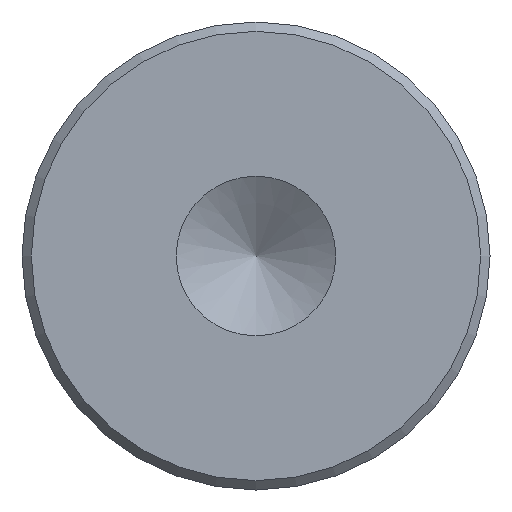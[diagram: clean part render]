
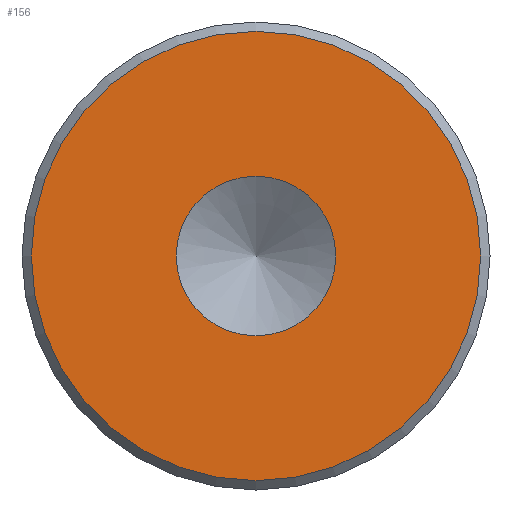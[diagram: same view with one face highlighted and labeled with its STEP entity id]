
A CAD part, front view. The second image highlights one B-rep face of the part: STEP entity #156.
In plain terms, the highlighted planar face has unit normal (0, -1, 0).
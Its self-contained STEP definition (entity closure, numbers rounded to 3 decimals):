
#16=FACE_BOUND('',#46,.T.);
#20=PLANE('',#193);
#33=FACE_OUTER_BOUND('',#45,.T.);
#45=EDGE_LOOP('',(#137));
#46=EDGE_LOOP('',(#138));
#63=CIRCLE('',#175,4.263);
#71=CIRCLE('',#189,12.);
#76=VERTEX_POINT('',#257);
#83=VERTEX_POINT('',#281);
#88=EDGE_CURVE('',#76,#76,#63,.T.);
#99=EDGE_CURVE('',#83,#83,#71,.T.);
#137=ORIENTED_EDGE('',*,*,#99,.F.);
#138=ORIENTED_EDGE('',*,*,#88,.T.);
#156=ADVANCED_FACE('',(#33,#16),#20,.F.);
#175=AXIS2_PLACEMENT_3D('',#258,#204,#205);
#189=AXIS2_PLACEMENT_3D('',#282,#235,#236);
#193=AXIS2_PLACEMENT_3D('',#290,#245,#246);
#204=DIRECTION('center_axis',(0.,1.,0.));
#205=DIRECTION('ref_axis',(0.,0.,-1.));
#235=DIRECTION('center_axis',(0.,1.,0.));
#236=DIRECTION('ref_axis',(-1.,0.,0.));
#245=DIRECTION('center_axis',(0.,1.,0.));
#246=DIRECTION('ref_axis',(-1.,0.,0.));
#257=CARTESIAN_POINT('',(0.,-75.,4.263));
#258=CARTESIAN_POINT('Origin',(0.,-75.,0.));
#281=CARTESIAN_POINT('',(12.,-75.,0.));
#282=CARTESIAN_POINT('Origin',(0.,-75.,0.));
#290=CARTESIAN_POINT('Origin',(0.,-75.,0.));
